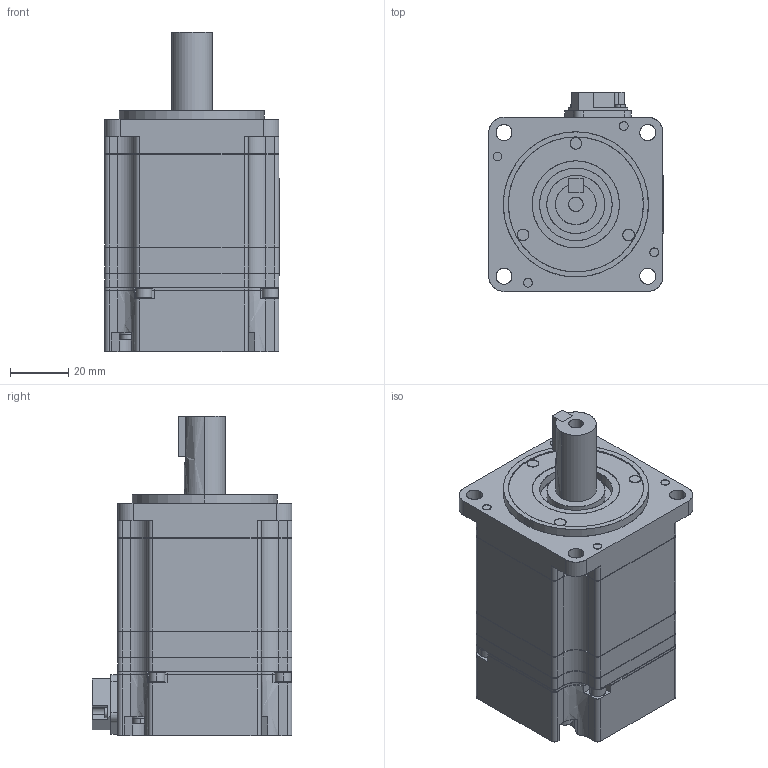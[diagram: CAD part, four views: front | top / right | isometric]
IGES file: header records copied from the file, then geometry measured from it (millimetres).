
Start section: SolidWorks IGES file using analytic representation for surfaces
Global section: file name: D:\YASKAWA\sgmjv_02a3m61.IGS; native system: SolidWorks 2006 by SolidWorks Corporation; preprocessor: SolidWorks 2006 by SolidWorks Corporation; author: yamanouchi; date: 140828.160019; units: millimetre
Bounding box: 60.1 x 68.8 x 110.1 mm (x, y, z)
Surface area: 32647.9 mm2 (no closed solid volume)
Topology: 0 solids, 0 shells, 507 faces, 7140 edges, 7140 vertices
Faces by surface type: bspline 284, revolution 223
